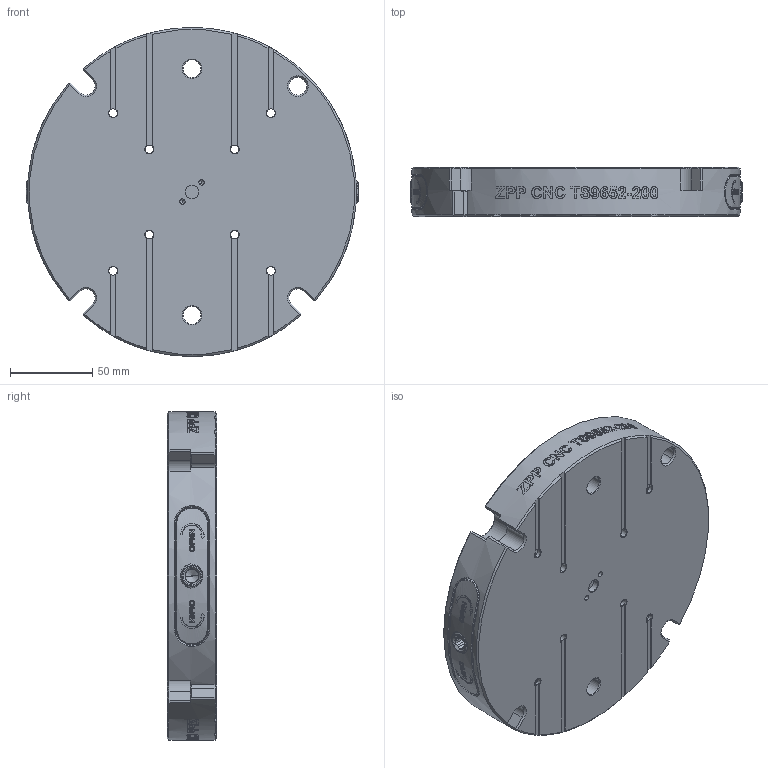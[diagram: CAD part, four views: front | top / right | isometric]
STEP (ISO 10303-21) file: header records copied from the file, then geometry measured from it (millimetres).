
FILE_DESCRIPTION((''),'2;1');
FILE_NAME('TS9652-200','2025-09-15T08:50:53',('XF'),(''),'CREO PARAMETRIC BY PTC INC, 2023073','CREO PARAMETRIC BY PTC INC, 2023073','');
FILE_SCHEMA(('CONFIG_CONTROL_DESIGN'));
Length unit declared in the file: millimetre
Products named in the file (1): TS9652-200
Bounding box: 202 x 30 x 200 mm (x, y, z)
Volume: 853217.8 mm3; surface area: 105082.4 mm2
Topology: 1 solids, 13 shells, 1955 faces, 5505 edges, 3685 vertices
Faces by surface type: plane 795, extrusion 730, cylinder 239, cone 111, bspline 64, torus 16
Entity records: 75091 total; most frequent: CARTESIAN_POINT 27420, ORIENTED_EDGE 10974, DIRECTION 7570, EDGE_CURVE 5487, VERTEX_POINT 3683, VECTOR 3462, LINE 2732, B_SPLINE_CURVE_WITH_KNOTS 2592
